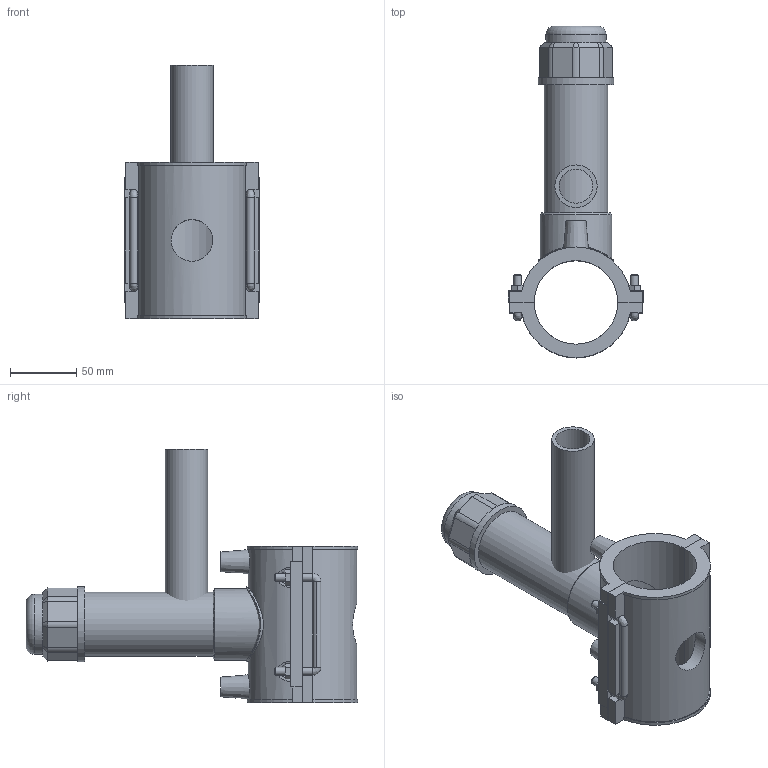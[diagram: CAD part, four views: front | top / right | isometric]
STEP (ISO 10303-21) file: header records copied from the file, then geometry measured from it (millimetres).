
FILE_DESCRIPTION(/* description */ (''),/* implementation_level */ '2;1');
FILE_NAME(/* name */ 'C:\Dropbox\KIMPROJECTS-Inventor 2019\99-16-3568-Processing\ElectroFusion Fittings\4963P4\stp\4963P4063032.stp',/* time_stamp */ '2022-03-17T11:25:31+02:00',/* author */ ('KIM'),/* organization */ (''),/* preprocessor_version */ 'ST-DEVELOPER v17.2',/* originating_system */ 'Autodesk Inventor 2019',/* authorisation */ '');
FILE_SCHEMA (('AUTOMOTIVE_DESIGN { 1 0 10303 214 3 1 1 }'));
Length unit declared in the file: millimetre
Products named in the file (1): 4963P4063032
Bounding box: 102 x 250.27 x 191 mm (x, y, z)
Volume: 531020.9 mm3; surface area: 155954.8 mm2
Topology: 3 solids, 3 shells, 188 faces, 493 edges, 316 vertices
Faces by surface type: plane 115, cylinder 48, cone 15, bspline 9, torus 1
Full cylindrical faces by diameter (mm): 4 x2, 6 x8, 10 x2, 25.6 x1, 31.36 x1, 32 x1, 39.69 x1, 45.36 x1, 48.195 x1, 53.865 x1, 56.7 x2
Entity records: 6785 total; most frequent: CARTESIAN_POINT 2083, ORIENTED_EDGE 970, DIRECTION 961, EDGE_CURVE 485, AXIS2_PLACEMENT_3D 329, VERTEX_POINT 316, LINE 303, VECTOR 303
